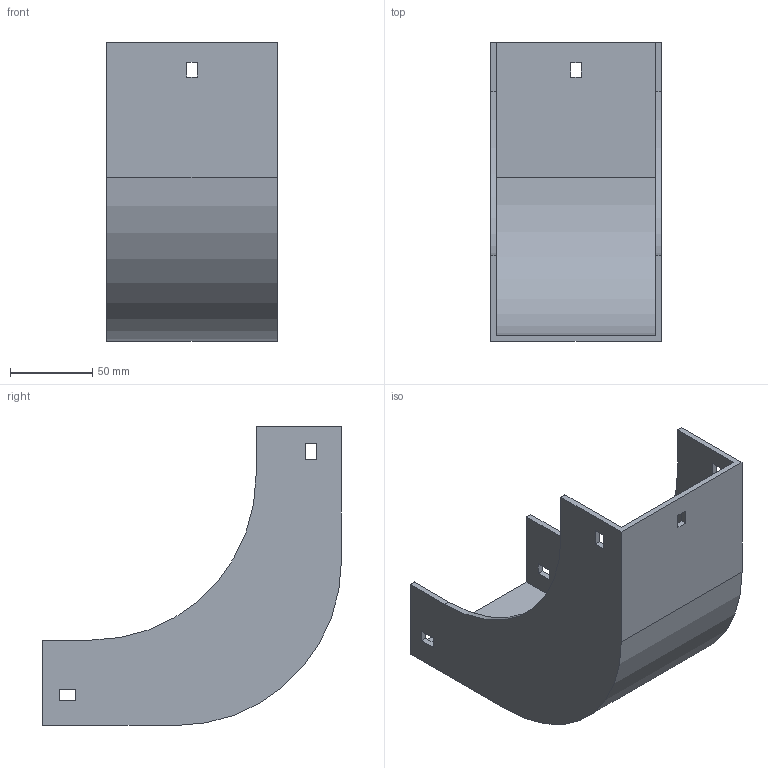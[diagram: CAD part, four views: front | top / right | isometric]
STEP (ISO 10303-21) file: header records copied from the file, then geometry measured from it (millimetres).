
FILE_DESCRIPTION (( 'STEP AP214' ), '1' );
FILE_NAME ('30F1B100.step', '2025-02-21T13:01:32', ( '' ), ( '' ), 'SwSTEP 2.0', 'SolidWorks 2023', '' );
FILE_SCHEMA (( 'AUTOMOTIVE_DESIGN' ));
Length unit declared in the file: millimetre
Products named in the file (1): 30F1B100
Bounding box: 104 x 182 x 182 mm (x, y, z)
Volume: 220251.8 mm3; surface area: 129497 mm2
Topology: 1 solids, 1 shells, 42 faces, 120 edges, 80 vertices
Faces by surface type: plane 38, cylinder 4
Entity records: 1399 total; most frequent: CARTESIAN_POINT 243, ORIENTED_EDGE 240, DIRECTION 214, EDGE_CURVE 120, VECTOR 112, LINE 112, VERTEX_POINT 80, EDGE_LOOP 54
